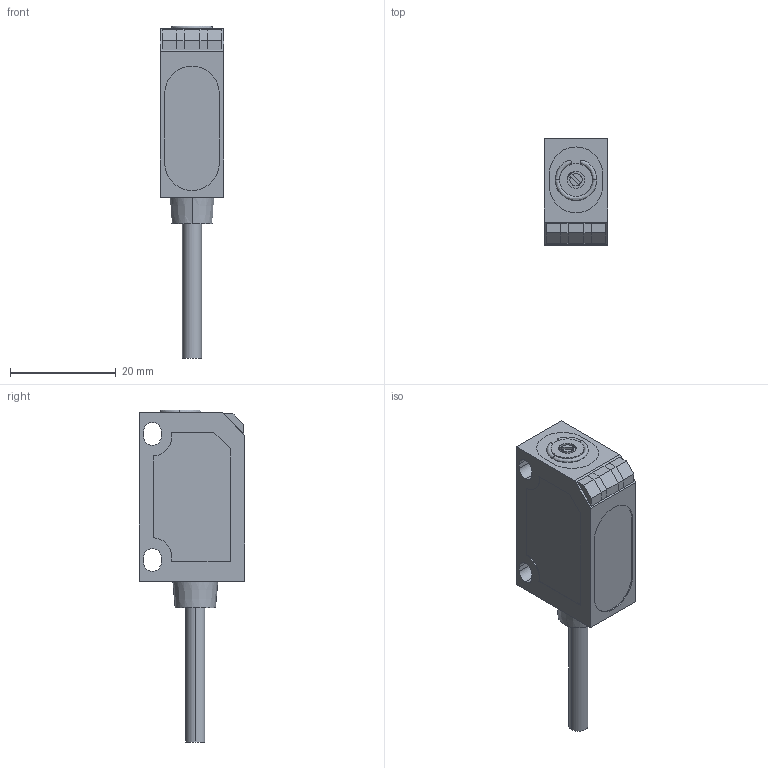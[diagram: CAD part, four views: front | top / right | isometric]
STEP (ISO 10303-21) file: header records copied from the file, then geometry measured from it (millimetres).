
FILE_DESCRIPTION (( 'STEP AP203' ), '1' );
FILE_NAME ('90-28292-001.STEP', '2013-02-16T18:25:43', ( 'Sam' ), ( 'Spade' ), 'SwSTEP 2.0', 'SolidWorks 2002296', '' );
FILE_SCHEMA (( 'CONFIG_CONTROL_DESIGN' ));
Length unit declared in the file: inch
Products named in the file (10): 90-28292-001; Imported1; Imported; Imported5; Imported4; Imported3; Imported2; Imported6; Imported7; Imported8
Assembly tree (9 placements, depth 2):
  90-28292-001
    Imported7
    Imported3
    Imported6
    Imported2
    Imported8
    Imported4
    Imported1
    Imported5
    Imported
Bounding box: 12.06 x 20.07 x 62.89 mm (x, y, z)
Volume: 7829.9 mm3; surface area: 4483.9 mm2
Topology: 11 solids, 11 shells, 130 faces, 301 edges, 200 vertices
Faces by surface type: plane 86, cylinder 39, bspline 3, cone 2
Entity records: 4896 total; most frequent: CARTESIAN_POINT 775, DIRECTION 655, ORIENTED_EDGE 602, EDGE_CURVE 301, AXIS2_PLACEMENT_3D 220, LINE 215, VECTOR 215, VERTEX_POINT 200
